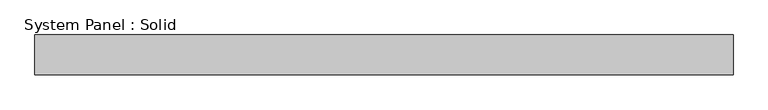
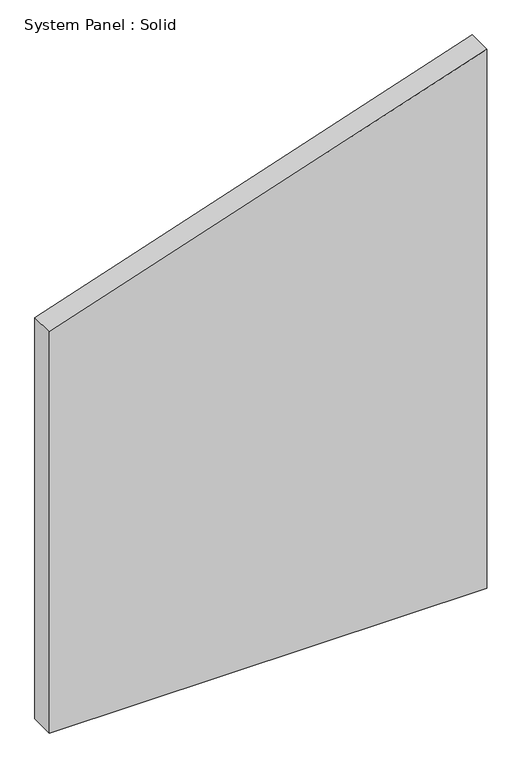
"""IFC4 building model written with IfcOpenShell, lengths in millimetres: plate geometry, System Panel : Solid."""

from ifc_helpers import new_model, si_unit, frame, origin, place, context, project, spatial, polyline, outline, extrude, source, transform, mapped, element, save


def system_panel_solid_3576f13f(model_context):
    return source(origin(), model_context, "Body", "SweptSolid", [
        extrude(outline(polyline([(0.0, -557.2125), (0.0, 557.2125), (1452.0890737, 557.2125), (1080.6140737, -557.2125), (0.0, -557.2125)])), frame((0.0, -19.05, 0.0), z_axis=(0.0, 1.0, 0.0), x_axis=(0.0, 0.0, 1.0)), (0.0, 0.0, 1.0), 63.5),
    ])


if __name__ == "__main__":
    model = new_model("IFC4")
    model_context = context("Model", 3, world=origin())
    ifc_project = project(units=[si_unit("LENGTHUNIT", "METRE", prefix="MILLI")], contexts=[model_context])
    site = spatial("IfcSite", under=ifc_project)
    building = spatial("IfcBuilding", under=site)
    placement = place(None, origin())
    system_panel_solid_shape = system_panel_solid_3576f13f(model_context)
    element("IfcPlate", 1, ObjectType="System Panel : Solid", at=placement, inside=building, context=model_context, shape_type="MappedRepresentation", body=[
        mapped(system_panel_solid_shape, transform((0.0, 0.0, 0.0), x_axis=(1.0, 0.0, 0.0), y_axis=(0.0, 1.0, 0.0), z_axis=(0.0, 0.0, 1.0))),
    ])
    save(model, "model.ifc")
